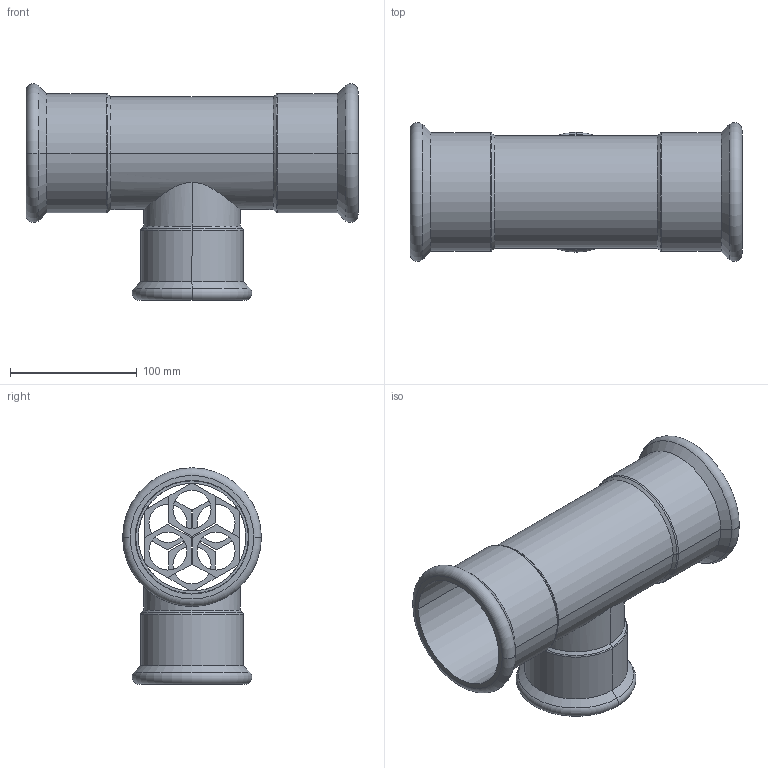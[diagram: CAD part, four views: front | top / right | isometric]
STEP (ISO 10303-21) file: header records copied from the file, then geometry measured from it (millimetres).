
FILE_DESCRIPTION(('OneSpaceDesigner STEP Export'),'2;1');
FILE_NAME('R2715 89x76x89.stp','2010-06-10T 9:36:23',(''),(''),'OneSpace Designer STEP processor for AP214 (Solid Model)','OneSpace Modeling 15.00A 14-Mar-2007 (C) CoCreate Software GmbH','');
FILE_SCHEMA(('AUTOMOTIVE_DESIGN { 1 0 10303 214 1 1 1 1 }'));
Length unit declared in the file: millimetre
Products named in the file (2): R2715_89x76x89
Assembly tree (1 placements, depth 2):
  R2715_89x76x89
    R2715_89x76x89
Bounding box: 262 x 109.48 x 170.74 mm (x, y, z)
Volume: 278772.5 mm3; surface area: 213535.5 mm2
Topology: 1 solids, 1 shells, 168 faces, 421 edges, 272 vertices
Faces by surface type: plane 90, cylinder 54, cone 12, torus 12
Entity records: 6024 total; most frequent: CARTESIAN_POINT 2337, ORIENTED_EDGE 842, DIRECTION 629, EDGE_CURVE 421, VERTEX_POINT 272, VECTOR 263, LINE 263, EDGE_LOOP 205
